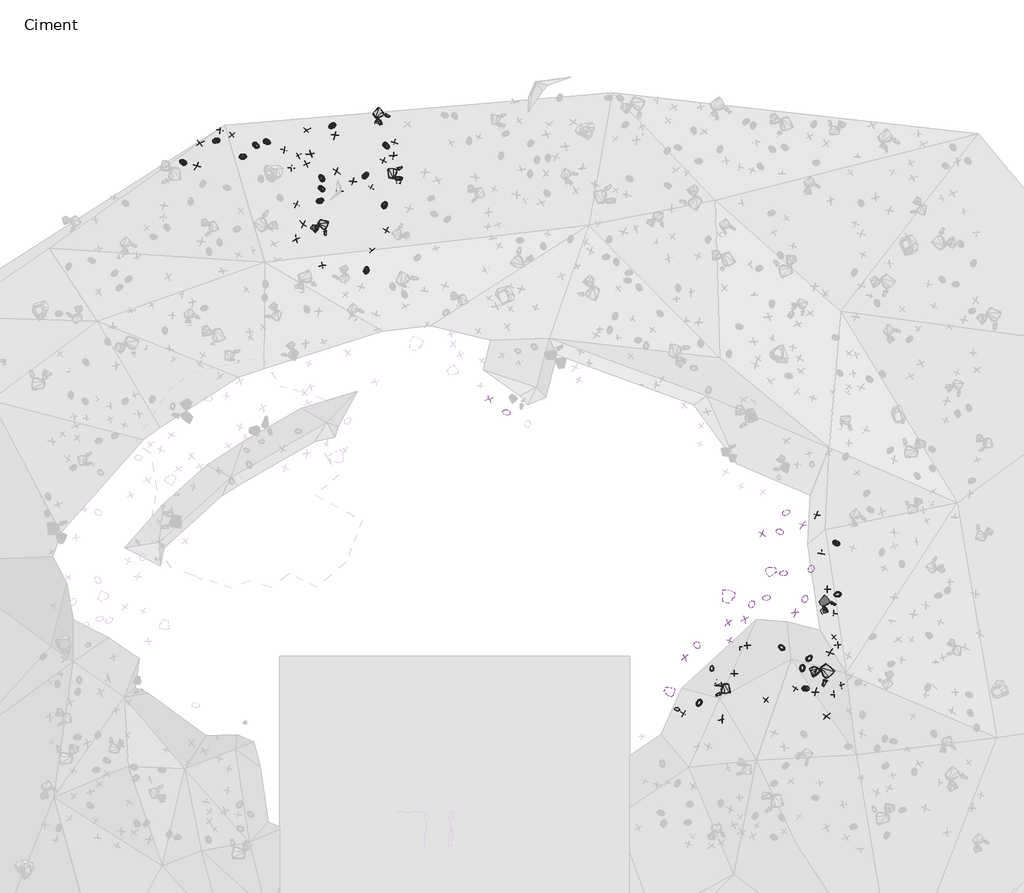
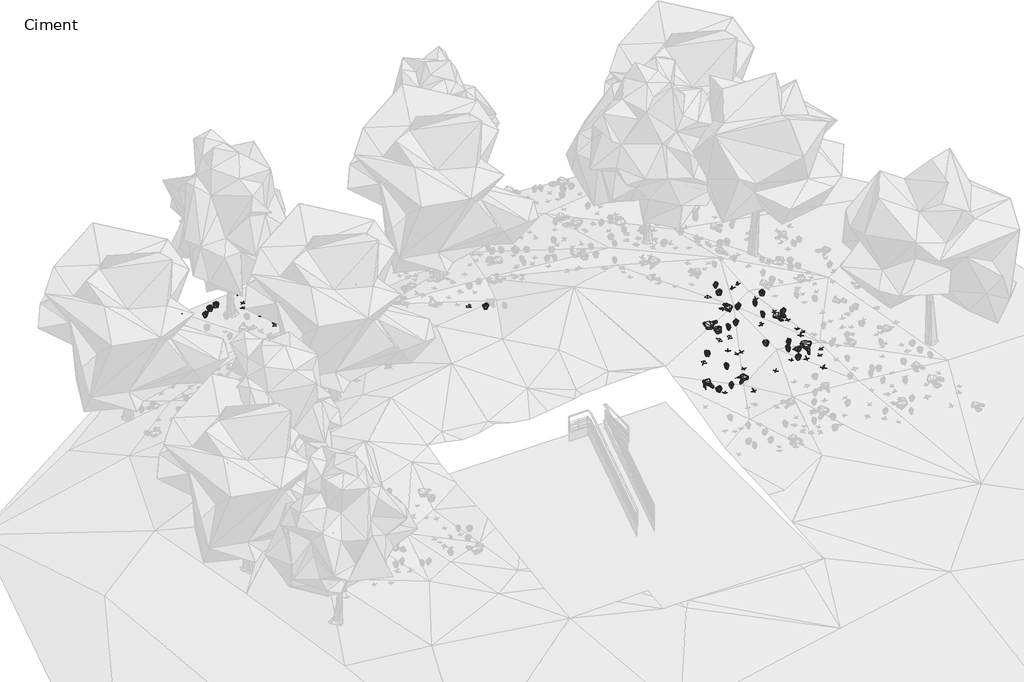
# One storey, part 24 of 30: 90 geographic elements.
"""IFC4 building model written with IfcOpenShell, lengths in millimetres."""

from ifc_helpers import new_model, si_unit, origin, place, context, project, spatial, transform, mapped, element, save
from components import enscape_assetdefinition_bush_025_fern_enscape_5718bf32, enscape_assetdefinition_bush_054_plant_09_version_2_enscape_7b546a12, enscape_assetdefinition_bush_062_plant_09_version_3_enscape_ccf8c8eb, enscape_assetdefinition_stone_013_group_enscape_516da325, enscape_assetdefinition_stone_013_group_enscape_db9b3e91

model = new_model("IFC4")

# Units and contexts
model_context = context("Model", 3, world=origin())
ifc_project = project(units=[si_unit("LENGTHUNIT", "METRE", prefix="MILLI")], contexts=[model_context])

# Site, building, storey
site = spatial("IfcSite", under=ifc_project)
building = spatial("IfcBuilding", under=site)
storey = spatial("IfcBuildingStorey", under=building, Name="Ciment", Elevation=-1500.0)

# Geographic elements
placement = place(None, origin())
enscape_assetdefinition_bush_025_fern_enscape_shape = enscape_assetdefinition_bush_025_fern_enscape_5718bf32(model_context)
element("IfcGeographicElement", 1, ObjectType="Enscape AssetDefinition - Bush 025 Fern : Enscape AssetDefinition - Bush 025 Fern", at=placement, inside=storey, context=model_context, shape_type="MappedRepresentation", body=[
    mapped(enscape_assetdefinition_bush_025_fern_enscape_shape, transform((11248.9833832, 2164.4420624, -379.1236877), x_axis=(-0.08680474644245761, 0.9962253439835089, 0.0), y_axis=(-0.9962253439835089, -0.08680474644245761, 0.0), z_axis=(0.0, 0.0, 1.0))),
])
element("IfcGeographicElement", 2, ObjectType="Enscape AssetDefinition - Bush 025 Fern : Enscape AssetDefinition - Bush 025 Fern", at=placement, inside=storey, context=model_context, shape_type="MappedRepresentation", body=[
    mapped(enscape_assetdefinition_bush_025_fern_enscape_shape, transform((14617.5899506, 1439.8517609, -627.004981), x_axis=(0.9952657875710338, 0.09719059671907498, 0.0), y_axis=(-0.09719059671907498, 0.9952657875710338, 0.0), z_axis=(0.0, 0.0, 1.0))),
])
element("IfcGeographicElement", 3, ObjectType="Enscape AssetDefinition - Bush 025 Fern : Enscape AssetDefinition - Bush 025 Fern", at=placement, inside=storey, context=model_context, shape_type="MappedRepresentation", body=[
    mapped(enscape_assetdefinition_bush_025_fern_enscape_shape, transform((-5085.7543945, 20898.5290527, -2830.5609226), x_axis=(0.8656762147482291, -0.5006043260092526, 0.0), y_axis=(0.5006043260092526, 0.8656762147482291, 0.0), z_axis=(0.0, 0.0, 1.0))),
])
element("IfcGeographicElement", 4, ObjectType="Enscape AssetDefinition - Bush 025 Fern : Enscape AssetDefinition - Bush 025 Fern", at=placement, inside=storey, context=model_context, shape_type="MappedRepresentation", body=[
    mapped(enscape_assetdefinition_bush_025_fern_enscape_shape, transform((-6518.1498528, 21073.3852386, -2942.3897266), x_axis=(-0.9495528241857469, -0.3136071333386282, 0.0), y_axis=(0.3136071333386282, -0.9495528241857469, 0.0), z_axis=(0.0, 0.0, 1.0))),
])
element("IfcGeographicElement", 5, ObjectType="Enscape AssetDefinition - Bush 025 Fern : Enscape AssetDefinition - Bush 025 Fern", at=placement, inside=storey, context=model_context, shape_type="MappedRepresentation", body=[
    mapped(enscape_assetdefinition_bush_025_fern_enscape_shape, transform((13744.6079254, 2916.727066, -441.4223433), x_axis=(-0.8074977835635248, 0.5898706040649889, 0.0), y_axis=(-0.5898706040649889, -0.8074977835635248, 0.0), z_axis=(0.0, 0.0, 1.0))),
])
element("IfcGeographicElement", 6, ObjectType="Enscape AssetDefinition - Bush 025 Fern : Enscape AssetDefinition - Bush 025 Fern", at=placement, inside=storey, context=model_context, shape_type="MappedRepresentation", body=[
    mapped(enscape_assetdefinition_bush_025_fern_enscape_shape, transform((3884.2182159, 11344.3441391, -65.4934645), x_axis=(-0.9575570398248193, 0.288243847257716, 0.0), y_axis=(-0.288243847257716, -0.9575570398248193, 0.0), z_axis=(0.0, 0.0, 1.0))),
])
element("IfcGeographicElement", 7, ObjectType="Enscape AssetDefinition - Bush 025 Fern : Enscape AssetDefinition - Bush 025 Fern", at=placement, inside=storey, context=model_context, shape_type="MappedRepresentation", body=[
    mapped(enscape_assetdefinition_bush_025_fern_enscape_shape, transform((10787.7025604, 922.7867126, -553.4416437), x_axis=(-0.3963527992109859, -0.9180982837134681, 0.0), y_axis=(0.9180982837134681, -0.3963527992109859, 0.0), z_axis=(0.0, 0.0, 1.0))),
])
element("IfcGeographicElement", 8, ObjectType="Enscape AssetDefinition - Bush 025 Fern : Enscape AssetDefinition - Bush 025 Fern", at=placement, inside=storey, context=model_context, shape_type="MappedRepresentation", body=[
    mapped(enscape_assetdefinition_bush_025_fern_enscape_shape, transform((13673.7384796, 7066.6322708, -121.9297647), x_axis=(-0.9081867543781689, 0.4185651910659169, 0.0), y_axis=(-0.4185651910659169, -0.9081867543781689, 0.0), z_axis=(0.0, 0.0, 1.0))),
])
element("IfcGeographicElement", 9, ObjectType="Enscape AssetDefinition - Bush 025 Fern : Enscape AssetDefinition - Bush 025 Fern", at=placement, inside=storey, context=model_context, shape_type="MappedRepresentation", body=[
    mapped(enscape_assetdefinition_bush_025_fern_enscape_shape, transform((9992.269516, 702.6062012, -345.9933996), x_axis=(-0.9807557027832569, 0.19523895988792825, 0.0), y_axis=(-0.19523895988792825, -0.9807557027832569, 0.0), z_axis=(0.0, 0.0, 1.0))),
])
element("IfcGeographicElement", 10, ObjectType="Enscape AssetDefinition - Bush 025 Fern : Enscape AssetDefinition - Bush 025 Fern", at=placement, inside=storey, context=model_context, shape_type="MappedRepresentation", body=[
    mapped(enscape_assetdefinition_bush_025_fern_enscape_shape, transform((-474.2088616, 18769.4225311, -2308.0177307), x_axis=(0.2947772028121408, 0.9555660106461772, 0.0), y_axis=(-0.9555660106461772, 0.2947772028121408, 0.0), z_axis=(0.0, 0.0, 1.0))),
])
element("IfcGeographicElement", 11, ObjectType="Enscape AssetDefinition - Bush 025 Fern : Enscape AssetDefinition - Bush 025 Fern", at=placement, inside=storey, context=model_context, shape_type="MappedRepresentation", body=[
    mapped(enscape_assetdefinition_bush_025_fern_enscape_shape, transform((-5550.037384, 20494.600296, -2761.2714767), x_axis=(0.9522758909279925, 0.3052386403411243, 0.0), y_axis=(-0.3052386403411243, 0.9522758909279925, 0.0), z_axis=(0.0, 0.0, 1.0))),
])
element("IfcGeographicElement", 12, ObjectType="Enscape AssetDefinition - Bush 025 Fern : Enscape AssetDefinition - Bush 025 Fern", at=placement, inside=storey, context=model_context, shape_type="MappedRepresentation", body=[
    mapped(enscape_assetdefinition_bush_025_fern_enscape_shape, transform((13211.1749649, 4687.8695488, -180.1968813), x_axis=(0.9129701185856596, 0.40802642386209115, 0.0), y_axis=(-0.40802642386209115, 0.9129701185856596, 0.0), z_axis=(0.0, 0.0, 1.0))),
])
element("IfcGeographicElement", 13, ObjectType="Enscape AssetDefinition - Bush 025 Fern : Enscape AssetDefinition - Bush 025 Fern", at=placement, inside=storey, context=model_context, shape_type="MappedRepresentation", body=[
    mapped(enscape_assetdefinition_bush_025_fern_enscape_shape, transform((14740.5042648, 2525.2761841, -470.2517986), x_axis=(0.6712833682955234, 0.7412008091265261, 0.0), y_axis=(-0.7412008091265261, 0.6712833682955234, 0.0), z_axis=(0.0, 0.0, 1.0))),
])
element("IfcGeographicElement", 14, ObjectType="Enscape AssetDefinition - Bush 025 Fern : Enscape AssetDefinition - Bush 025 Fern", at=placement, inside=storey, context=model_context, shape_type="MappedRepresentation", body=[
    mapped(enscape_assetdefinition_bush_025_fern_enscape_shape, transform((-1155.9677124, 19823.759079, -2531.080246), x_axis=(0.5097655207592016, 0.8603133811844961, 0.0), y_axis=(-0.8603133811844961, 0.5097655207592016, 0.0), z_axis=(0.0, 0.0, 1.0))),
])
element("IfcGeographicElement", 15, ObjectType="Enscape AssetDefinition - Bush 025 Fern : Enscape AssetDefinition - Bush 025 Fern", at=placement, inside=storey, context=model_context, shape_type="MappedRepresentation", body=[
    mapped(enscape_assetdefinition_bush_025_fern_enscape_shape, transform((-2727.9891968, 19339.7045135, -2470.6821442), x_axis=(0.8900844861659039, -0.4557955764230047, 0.0), y_axis=(0.4557955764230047, 0.8900844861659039, 0.0), z_axis=(0.0, 0.0, 1.0))),
])
element("IfcGeographicElement", 16, ObjectType="Enscape AssetDefinition - Bush 025 Fern : Enscape AssetDefinition - Bush 025 Fern", at=placement, inside=storey, context=model_context, shape_type="MappedRepresentation", body=[
    mapped(enscape_assetdefinition_bush_025_fern_enscape_shape, transform((10718.2407379, 2984.7257137, -13.4726763), x_axis=(0.5838577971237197, -0.8118559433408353, 0.0), y_axis=(0.8118559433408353, 0.5838577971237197, 0.0), z_axis=(0.0, 0.0, 1.0))),
])
element("IfcGeographicElement", 17, ObjectType="Enscape AssetDefinition - Bush 025 Fern : Enscape AssetDefinition - Bush 025 Fern", at=placement, inside=storey, context=model_context, shape_type="MappedRepresentation", body=[
    mapped(enscape_assetdefinition_bush_025_fern_enscape_shape, transform((-418.5123444, 20882.8411102, -2737.5376225), x_axis=(0.8061240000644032, -0.5917466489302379, 0.0), y_axis=(0.5917466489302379, 0.8061240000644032, 0.0), z_axis=(0.0, 0.0, 1.0))),
])
element("IfcGeographicElement", 18, ObjectType="Enscape AssetDefinition - Bush 025 Fern : Enscape AssetDefinition - Bush 025 Fern", at=placement, inside=storey, context=model_context, shape_type="MappedRepresentation", body=[
    mapped(enscape_assetdefinition_bush_025_fern_enscape_shape, transform((14799.1847992, 5719.7594643, -296.9311476), x_axis=(-0.159179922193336, -0.9872495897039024, 0.0), y_axis=(0.9872495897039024, -0.159179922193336, 0.0), z_axis=(0.0, 0.0, 1.0))),
])
element("IfcGeographicElement", 19, ObjectType="Enscape AssetDefinition - Bush 025 Fern : Enscape AssetDefinition - Bush 025 Fern", at=placement, inside=storey, context=model_context, shape_type="MappedRepresentation", body=[
    mapped(enscape_assetdefinition_bush_025_fern_enscape_shape, transform((-2334.5987797, 21608.7532043, -2926.6290665), x_axis=(0.7969665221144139, 0.604023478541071, 0.0), y_axis=(-0.604023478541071, 0.7969665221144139, 0.0), z_axis=(0.0, 0.0, 1.0))),
])
element("IfcGeographicElement", 20, ObjectType="Enscape AssetDefinition - Bush 025 Fern : Enscape AssetDefinition - Bush 025 Fern", at=placement, inside=storey, context=model_context, shape_type="MappedRepresentation", body=[
    mapped(enscape_assetdefinition_bush_025_fern_enscape_shape, transform((13809.1716766, 5573.8258362, -36.4154577), x_axis=(-0.9680045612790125, -0.2509325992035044, 0.0), y_axis=(0.2509325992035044, -0.9680045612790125, 0.0), z_axis=(0.0, 0.0, 1.0))),
])
element("IfcGeographicElement", 21, ObjectType="Enscape AssetDefinition - Bush 025 Fern : Enscape AssetDefinition - Bush 025 Fern", at=placement, inside=storey, context=model_context, shape_type="MappedRepresentation", body=[
    mapped(enscape_assetdefinition_bush_025_fern_enscape_shape, transform((14588.476181, 4656.0382843, -192.414403), x_axis=(0.0877627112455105, 0.9961414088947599, 0.0), y_axis=(-0.9961414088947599, 0.0877627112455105, 0.0), z_axis=(0.0, 0.0, 1.0))),
])
element("IfcGeographicElement", 22, ObjectType="Enscape AssetDefinition - Bush 025 Fern : Enscape AssetDefinition - Bush 025 Fern", at=placement, inside=storey, context=model_context, shape_type="MappedRepresentation", body=[
    mapped(enscape_assetdefinition_bush_025_fern_enscape_shape, transform((-1128.5305023, 16433.3057404, -1598.2650518), x_axis=(-0.007384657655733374, 0.9999727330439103, 0.0), y_axis=(-0.9999727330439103, -0.007384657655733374, 0.0), z_axis=(0.0, 0.0, 1.0))),
])
element("IfcGeographicElement", 23, ObjectType="Enscape AssetDefinition - Bush 025 Fern : Enscape AssetDefinition - Bush 025 Fern", at=placement, inside=storey, context=model_context, shape_type="MappedRepresentation", body=[
    mapped(enscape_assetdefinition_bush_025_fern_enscape_shape, transform((12681.1466217, 4469.7170258, -105.4997444), x_axis=(0.16474496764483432, 0.9863361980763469, 0.0), y_axis=(-0.9863361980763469, 0.16474496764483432, 0.0), z_axis=(0.0, 0.0, 1.0))),
])
element("IfcGeographicElement", 24, ObjectType="Enscape AssetDefinition - Bush 025 Fern : Enscape AssetDefinition - Bush 025 Fern", at=placement, inside=storey, context=model_context, shape_type="MappedRepresentation", body=[
    mapped(enscape_assetdefinition_bush_025_fern_enscape_shape, transform((14487.36763, 2163.7766361, -541.2278175), x_axis=(0.030425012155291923, -0.9995370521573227, 0.0), y_axis=(0.9995370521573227, 0.030425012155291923, 0.0), z_axis=(0.0, 0.0, 1.0))),
])
element("IfcGeographicElement", 25, ObjectType="Enscape AssetDefinition - Bush 025 Fern : Enscape AssetDefinition - Bush 025 Fern", at=placement, inside=storey, context=model_context, shape_type="MappedRepresentation", body=[
    mapped(enscape_assetdefinition_bush_025_fern_enscape_shape, transform((15714.307785, 6645.9908485, -603.8547754), x_axis=(0.9630651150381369, -0.2692686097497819, 0.0), y_axis=(0.2692686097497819, 0.9630651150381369, 0.0), z_axis=(0.0, 0.0, 1.0))),
])
element("IfcGeographicElement", 26, ObjectType="Enscape AssetDefinition - Bush 025 Fern : Enscape AssetDefinition - Bush 025 Fern", at=placement, inside=storey, context=model_context, shape_type="MappedRepresentation", body=[
    mapped(enscape_assetdefinition_bush_025_fern_enscape_shape, transform((13913.7945175, 7743.2265282, -200.3325224), x_axis=(0.7265784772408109, 0.6870834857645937, 0.0), y_axis=(-0.6870834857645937, 0.7265784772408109, 0.0), z_axis=(0.0, 0.0, 1.0))),
])
element("IfcGeographicElement", 27, ObjectType="Enscape AssetDefinition - Bush 025 Fern : Enscape AssetDefinition - Bush 025 Fern", at=placement, inside=storey, context=model_context, shape_type="MappedRepresentation", body=[
    mapped(enscape_assetdefinition_bush_025_fern_enscape_shape, transform((15743.0391312, 4816.6389465, -530.0244093), x_axis=(-0.9559693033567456, -0.2934666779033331, 0.0), y_axis=(0.2934666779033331, -0.9559693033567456, 0.0), z_axis=(0.0, 0.0, 1.0))),
])
element("IfcGeographicElement", 28, ObjectType="Enscape AssetDefinition - Bush 025 Fern : Enscape AssetDefinition - Bush 025 Fern", at=placement, inside=storey, context=model_context, shape_type="MappedRepresentation", body=[
    mapped(enscape_assetdefinition_bush_025_fern_enscape_shape, transform((-7704.044342, 20300.0354767, -2952.340126), x_axis=(-0.9357290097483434, 0.35271974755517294, 0.0), y_axis=(-0.35271974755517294, -0.9357290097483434, 0.0), z_axis=(0.0, 0.0, 1.0))),
])
element("IfcGeographicElement", 29, ObjectType="Enscape AssetDefinition - Bush 025 Fern : Enscape AssetDefinition - Bush 025 Fern", at=placement, inside=storey, context=model_context, shape_type="MappedRepresentation", body=[
    mapped(enscape_assetdefinition_bush_025_fern_enscape_shape, transform((-2778.66745, 18917.8905487, -2388.6494637), x_axis=(0.876327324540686, 0.4817161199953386, 0.0), y_axis=(-0.4817161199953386, 0.876327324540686, 0.0), z_axis=(0.0, 0.0, 1.0))),
])
element("IfcGeographicElement", 30, ObjectType="Enscape AssetDefinition - Bush 025 Fern : Enscape AssetDefinition - Bush 025 Fern", at=placement, inside=storey, context=model_context, shape_type="MappedRepresentation", body=[
    mapped(enscape_assetdefinition_bush_025_fern_enscape_shape, transform((-4686.3856316, 21024.5170593, -2846.4984894), x_axis=(0.9599027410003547, -0.2803332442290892, 0.0), y_axis=(0.2803332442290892, 0.9599027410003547, 0.0), z_axis=(0.0, 0.0, 1.0))),
])
element("IfcGeographicElement", 31, ObjectType="Enscape AssetDefinition - Bush 025 Fern : Enscape AssetDefinition - Bush 025 Fern", at=placement, inside=storey, context=model_context, shape_type="MappedRepresentation", body=[
    mapped(enscape_assetdefinition_bush_025_fern_enscape_shape, transform((-2729.3815613, 19734.5848083, -2548.5663414), x_axis=(-0.6682875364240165, 0.7439030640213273, 0.0), y_axis=(-0.7439030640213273, -0.6682875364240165, 0.0), z_axis=(0.0, 0.0, 1.0))),
])
enscape_assetdefinition_bush_054_plant_09_version_2_enscape_shape = enscape_assetdefinition_bush_054_plant_09_version_2_enscape_7b546a12(model_context)
element("IfcGeographicElement", 32, ObjectType="Enscape AssetDefinition - Bush 054 Plant 09, Version 2 : Enscape AssetDefinition - Bush 054 Plant 09, Version 2", at=placement, inside=storey, context=model_context, shape_type="MappedRepresentation", body=[
    mapped(enscape_assetdefinition_bush_054_plant_09_version_2_enscape_shape, transform((-3277.431488, 20243.2250977, -2661.0612869), x_axis=(-0.8932285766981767, -0.44960283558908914, 0.0), y_axis=(0.44960283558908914, -0.8932285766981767, 0.0), z_axis=(0.0, 0.0, 1.0))),
])
element("IfcGeographicElement", 33, ObjectType="Enscape AssetDefinition - Bush 054 Plant 09, Version 2 : Enscape AssetDefinition - Bush 054 Plant 09, Version 2", at=placement, inside=storey, context=model_context, shape_type="MappedRepresentation", body=[
    mapped(enscape_assetdefinition_bush_054_plant_09_version_2_enscape_shape, transform((-527.0252228, 20357.9158783, -2627.2654533), x_axis=(-0.3972254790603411, -0.9177210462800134, 0.0), y_axis=(0.9177210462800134, -0.3972254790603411, 0.0), z_axis=(0.0, 0.0, 1.0))),
])
element("IfcGeographicElement", 34, ObjectType="Enscape AssetDefinition - Bush 054 Plant 09, Version 2 : Enscape AssetDefinition - Bush 054 Plant 09, Version 2", at=placement, inside=storey, context=model_context, shape_type="MappedRepresentation", body=[
    mapped(enscape_assetdefinition_bush_054_plant_09_version_2_enscape_shape, transform((-3811.4032745, 20088.842392, -2642.5247192), x_axis=(0.021592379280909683, 0.9997668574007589, 0.0), y_axis=(-0.9997668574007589, 0.021592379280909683, 0.0), z_axis=(0.0, 0.0, 1.0))),
])
element("IfcGeographicElement", 35, ObjectType="Enscape AssetDefinition - Bush 054 Plant 09, Version 2 : Enscape AssetDefinition - Bush 054 Plant 09, Version 2", at=placement, inside=storey, context=model_context, shape_type="MappedRepresentation", body=[
    mapped(enscape_assetdefinition_bush_054_plant_09_version_2_enscape_shape, transform((15388.1130219, 5008.0637932, -434.7918034), x_axis=(-0.999502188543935, -0.031549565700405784, 0.0), y_axis=(0.031549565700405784, -0.999502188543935, 0.0), z_axis=(0.0, 0.0, 1.0))),
])
element("IfcGeographicElement", 36, ObjectType="Enscape AssetDefinition - Bush 054 Plant 09, Version 2 : Enscape AssetDefinition - Bush 054 Plant 09, Version 2", at=placement, inside=storey, context=model_context, shape_type="MappedRepresentation", body=[
    mapped(enscape_assetdefinition_bush_054_plant_09_version_2_enscape_shape, transform((-4080.4634094, 20728.0006409, -2774.5347023), x_axis=(0.9894125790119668, -0.14513010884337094, 0.0), y_axis=(0.14513010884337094, 0.9894125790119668, 0.0), z_axis=(0.0, 0.0, 1.0))),
])
element("IfcGeographicElement", 37, ObjectType="Enscape AssetDefinition - Bush 054 Plant 09, Version 2 : Enscape AssetDefinition - Bush 054 Plant 09, Version 2", at=placement, inside=storey, context=model_context, shape_type="MappedRepresentation", body=[
    mapped(enscape_assetdefinition_bush_054_plant_09_version_2_enscape_shape, transform((-2716.1560059, 16601.7341614, -1797.973752), x_axis=(0.2127259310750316, -0.9771119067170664, 0.0), y_axis=(0.9771119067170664, 0.2127259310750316, 0.0), z_axis=(0.0, 0.0, 1.0))),
])
element("IfcGeographicElement", 38, ObjectType="Enscape AssetDefinition - Bush 054 Plant 09, Version 2 : Enscape AssetDefinition - Bush 054 Plant 09, Version 2", at=placement, inside=storey, context=model_context, shape_type="MappedRepresentation", body=[
    mapped(enscape_assetdefinition_bush_054_plant_09_version_2_enscape_shape, transform((11884.5539093, 3154.4818878, -266.8989897), x_axis=(-0.3712023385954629, -0.9285520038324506, 0.0), y_axis=(0.9285520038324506, -0.3712023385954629, 0.0), z_axis=(0.0, 0.0, 1.0))),
])
element("IfcGeographicElement", 39, ObjectType="Enscape AssetDefinition - Bush 054 Plant 09, Version 2 : Enscape AssetDefinition - Bush 054 Plant 09, Version 2", at=placement, inside=storey, context=model_context, shape_type="MappedRepresentation", body=[
    mapped(enscape_assetdefinition_bush_054_plant_09_version_2_enscape_shape, transform((15619.5611954, 1236.4025116, -653.5947323), x_axis=(0.18390237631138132, -0.9829445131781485, 0.0), y_axis=(0.9829445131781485, 0.18390237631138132, 0.0), z_axis=(0.0, 0.0, 1.0))),
])
element("IfcGeographicElement", 40, ObjectType="Enscape AssetDefinition - Bush 054 Plant 09, Version 2 : Enscape AssetDefinition - Bush 054 Plant 09, Version 2", at=placement, inside=storey, context=model_context, shape_type="MappedRepresentation", body=[
    mapped(enscape_assetdefinition_bush_054_plant_09_version_2_enscape_shape, transform((-934.9727631, 17133.2607269, -1987.5115156), x_axis=(0.7255229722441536, -0.688197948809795, 0.0), y_axis=(0.688197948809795, 0.7255229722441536, 0.0), z_axis=(0.0, 0.0, 1.0))),
])
element("IfcGeographicElement", 41, ObjectType="Enscape AssetDefinition - Bush 054 Plant 09, Version 2 : Enscape AssetDefinition - Bush 054 Plant 09, Version 2", at=placement, inside=storey, context=model_context, shape_type="MappedRepresentation", body=[
    mapped(enscape_assetdefinition_bush_054_plant_09_version_2_enscape_shape, transform((15165.2812958, 6286.605835, -424.8818159), x_axis=(-0.08933460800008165, -0.9960016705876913, 0.0), y_axis=(0.9960016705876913, -0.08933460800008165, 0.0), z_axis=(0.0, 0.0, 1.0))),
])
element("IfcGeographicElement", 42, ObjectType="Enscape AssetDefinition - Bush 054 Plant 09, Version 2 : Enscape AssetDefinition - Bush 054 Plant 09, Version 2", at=placement, inside=storey, context=model_context, shape_type="MappedRepresentation", body=[
    mapped(enscape_assetdefinition_bush_054_plant_09_version_2_enscape_shape, transform((10228.1475067, 541.8281555, -437.7381802), x_axis=(0.8854075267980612, -0.4648155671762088, 0.0), y_axis=(0.4648155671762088, 0.8854075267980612, 0.0), z_axis=(0.0, 0.0, 1.0))),
])
element("IfcGeographicElement", 43, ObjectType="Enscape AssetDefinition - Bush 054 Plant 09, Version 2 : Enscape AssetDefinition - Bush 054 Plant 09, Version 2", at=placement, inside=storey, context=model_context, shape_type="MappedRepresentation", body=[
    mapped(enscape_assetdefinition_bush_054_plant_09_version_2_enscape_shape, transform((12509.4890594, 2993.5131073, -446.9628334), x_axis=(-0.9897240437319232, -0.1429906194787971, 0.0), y_axis=(0.1429906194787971, -0.9897240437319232, 0.0), z_axis=(0.0, 0.0, 1.0))),
])
element("IfcGeographicElement", 44, ObjectType="Enscape AssetDefinition - Bush 054 Plant 09, Version 2 : Enscape AssetDefinition - Bush 054 Plant 09, Version 2", at=placement, inside=storey, context=model_context, shape_type="MappedRepresentation", body=[
    mapped(enscape_assetdefinition_bush_054_plant_09_version_2_enscape_shape, transform((-3632.9288483, 18787.9180908, -2382.0638657), x_axis=(-0.9363211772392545, 0.3511447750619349, 0.0), y_axis=(-0.3511447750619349, -0.9363211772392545, 0.0), z_axis=(0.0, 0.0, 1.0))),
])
element("IfcGeographicElement", 45, ObjectType="Enscape AssetDefinition - Bush 054 Plant 09, Version 2 : Enscape AssetDefinition - Bush 054 Plant 09, Version 2", at=placement, inside=storey, context=model_context, shape_type="MappedRepresentation", body=[
    mapped(enscape_assetdefinition_bush_054_plant_09_version_2_enscape_shape, transform((14238.2564545, 1448.30513, -572.5650787), x_axis=(0.8615492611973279, -0.5076739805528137, 0.0), y_axis=(0.5076739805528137, 0.8615492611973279, 0.0), z_axis=(0.0, 0.0, 1.0))),
])
element("IfcGeographicElement", 46, ObjectType="Enscape AssetDefinition - Bush 054 Plant 09, Version 2 : Enscape AssetDefinition - Bush 054 Plant 09, Version 2", at=placement, inside=storey, context=model_context, shape_type="MappedRepresentation", body=[
    mapped(enscape_assetdefinition_bush_054_plant_09_version_2_enscape_shape, transform((-133.9168549, 21011.3964081, -2759.973526), x_axis=(-0.24291300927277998, -0.970048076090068, 0.0), y_axis=(0.970048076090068, -0.24291300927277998, 0.0), z_axis=(0.0, 0.0, 1.0))),
])
element("IfcGeographicElement", 47, ObjectType="Enscape AssetDefinition - Bush 054 Plant 09, Version 2 : Enscape AssetDefinition - Bush 054 Plant 09, Version 2", at=placement, inside=storey, context=model_context, shape_type="MappedRepresentation", body=[
    mapped(enscape_assetdefinition_bush_054_plant_09_version_2_enscape_shape, transform((15760.9453201, 2997.9515076, -456.7769766), x_axis=(0.9823305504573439, 0.18715418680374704, 0.0), y_axis=(-0.18715418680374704, 0.9823305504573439, 0.0), z_axis=(0.0, 0.0, 1.0))),
])
element("IfcGeographicElement", 48, ObjectType="Enscape AssetDefinition - Bush 054 Plant 09, Version 2 : Enscape AssetDefinition - Bush 054 Plant 09, Version 2", at=placement, inside=storey, context=model_context, shape_type="MappedRepresentation", body=[
    mapped(enscape_assetdefinition_bush_054_plant_09_version_2_enscape_shape, transform((-962.884903, 19391.0770416, -2441.4713383), x_axis=(-0.8887048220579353, 0.4584798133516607, 0.0), y_axis=(-0.4584798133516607, -0.8887048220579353, 0.0), z_axis=(0.0, 0.0, 1.0))),
])
element("IfcGeographicElement", 49, ObjectType="Enscape AssetDefinition - Bush 054 Plant 09, Version 2 : Enscape AssetDefinition - Bush 054 Plant 09, Version 2", at=placement, inside=storey, context=model_context, shape_type="MappedRepresentation", body=[
    mapped(enscape_assetdefinition_bush_054_plant_09_version_2_enscape_shape, transform((-3569.927454, 20538.7878418, -2725.8517742), x_axis=(-0.5461137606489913, 0.8377110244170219, 0.0), y_axis=(-0.8377110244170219, -0.5461137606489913, 0.0), z_axis=(0.0, 0.0, 1.0))),
])
element("IfcGeographicElement", 50, ObjectType="Enscape AssetDefinition - Bush 054 Plant 09, Version 2 : Enscape AssetDefinition - Bush 054 Plant 09, Version 2", at=placement, inside=storey, context=model_context, shape_type="MappedRepresentation", body=[
    mapped(enscape_assetdefinition_bush_054_plant_09_version_2_enscape_shape, transform((13179.6674728, 1040.6703949, -548.9351749), x_axis=(-0.6044837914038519, -0.7966174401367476, 0.0), y_axis=(0.7966174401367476, -0.6044837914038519, 0.0), z_axis=(0.0, 0.0, 1.0))),
])
element("IfcGeographicElement", 51, ObjectType="Enscape AssetDefinition - Bush 054 Plant 09, Version 2 : Enscape AssetDefinition - Bush 054 Plant 09, Version 2", at=placement, inside=storey, context=model_context, shape_type="MappedRepresentation", body=[
    mapped(enscape_assetdefinition_bush_054_plant_09_version_2_enscape_shape, transform((15883.7070465, 1563.4880066, -583.9567184), x_axis=(-0.20968820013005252, 0.9777683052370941, 0.0), y_axis=(-0.9777683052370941, -0.20968820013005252, 0.0), z_axis=(0.0, 0.0, 1.0))),
])
element("IfcGeographicElement", 52, ObjectType="Enscape AssetDefinition - Bush 054 Plant 09, Version 2 : Enscape AssetDefinition - Bush 054 Plant 09, Version 2", at=placement, inside=storey, context=model_context, shape_type="MappedRepresentation", body=[
    mapped(enscape_assetdefinition_bush_054_plant_09_version_2_enscape_shape, transform((-2078.4664154, 19262.8974915, -2441.0638809), x_axis=(0.016941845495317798, 0.9998564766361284, 0.0), y_axis=(-0.9998564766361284, 0.016941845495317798, 0.0), z_axis=(0.0, 0.0, 1.0))),
])
element("IfcGeographicElement", 53, ObjectType="Enscape AssetDefinition - Bush 054 Plant 09, Version 2 : Enscape AssetDefinition - Bush 054 Plant 09, Version 2", at=placement, inside=storey, context=model_context, shape_type="MappedRepresentation", body=[
    mapped(enscape_assetdefinition_bush_054_plant_09_version_2_enscape_shape, transform((15603.2915115, 4143.5985565, -459.8581791), x_axis=(-0.057510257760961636, -0.9983449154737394, 0.0), y_axis=(0.9983449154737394, -0.057510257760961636, 0.0), z_axis=(0.0, 0.0, 1.0))),
])
element("IfcGeographicElement", 54, ObjectType="Enscape AssetDefinition - Bush 054 Plant 09, Version 2 : Enscape AssetDefinition - Bush 054 Plant 09, Version 2", at=placement, inside=storey, context=model_context, shape_type="MappedRepresentation", body=[
    mapped(enscape_assetdefinition_bush_054_plant_09_version_2_enscape_shape, transform((-5954.3151855, 21273.3898163, -2923.8233566), x_axis=(0.671324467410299, -0.7411635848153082, 0.0), y_axis=(0.7411635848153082, 0.671324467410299, 0.0), z_axis=(0.0, 0.0, 1.0))),
])
element("IfcGeographicElement", 55, ObjectType="Enscape AssetDefinition - Bush 054 Plant 09, Version 2 : Enscape AssetDefinition - Bush 054 Plant 09, Version 2", at=placement, inside=storey, context=model_context, shape_type="MappedRepresentation", body=[
    mapped(enscape_assetdefinition_bush_054_plant_09_version_2_enscape_shape, transform((12237.2493744, 2927.1945953, -421.2445021), x_axis=(0.9936969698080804, 0.11209965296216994, 0.0), y_axis=(-0.11209965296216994, 0.9936969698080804, 0.0), z_axis=(0.0, 0.0, 1.0))),
])
element("IfcGeographicElement", 56, ObjectType="Enscape AssetDefinition - Bush 054 Plant 09, Version 2 : Enscape AssetDefinition - Bush 054 Plant 09, Version 2", at=placement, inside=storey, context=model_context, shape_type="MappedRepresentation", body=[
    mapped(enscape_assetdefinition_bush_054_plant_09_version_2_enscape_shape, transform((-6367.0101166, 21436.958313, -2985.8870506), x_axis=(0.07787745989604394, 0.9969629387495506, 0.0), y_axis=(-0.9969629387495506, 0.07787745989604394, 0.0), z_axis=(0.0, 0.0, 1.0))),
])
element("IfcGeographicElement", 57, ObjectType="Enscape AssetDefinition - Bush 054 Plant 09, Version 2 : Enscape AssetDefinition - Bush 054 Plant 09, Version 2", at=placement, inside=storey, context=model_context, shape_type="MappedRepresentation", body=[
    mapped(enscape_assetdefinition_bush_054_plant_09_version_2_enscape_shape, transform((-416.2216187, 17858.9897156, -2127.2292137), x_axis=(-0.43921195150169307, -0.8983834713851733, 0.0), y_axis=(0.8983834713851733, -0.43921195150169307, 0.0), z_axis=(0.0, 0.0, 1.0))),
])
element("IfcGeographicElement", 58, ObjectType="Enscape AssetDefinition - Bush 054 Plant 09, Version 2 : Enscape AssetDefinition - Bush 054 Plant 09, Version 2", at=placement, inside=storey, context=model_context, shape_type="MappedRepresentation", body=[
    mapped(enscape_assetdefinition_bush_054_plant_09_version_2_enscape_shape, transform((15617.6013947, 3276.6857147, -427.6387691), x_axis=(0.6967606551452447, 0.7173036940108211, 0.0), y_axis=(-0.7173036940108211, 0.6967606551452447, 0.0), z_axis=(0.0, 0.0, 1.0))),
])
element("IfcGeographicElement", 59, ObjectType="Enscape AssetDefinition - Bush 054 Plant 09, Version 2 : Enscape AssetDefinition - Bush 054 Plant 09, Version 2", at=placement, inside=storey, context=model_context, shape_type="MappedRepresentation", body=[
    mapped(enscape_assetdefinition_bush_054_plant_09_version_2_enscape_shape, transform((12043.4436798, 1979.5913696, -607.2406769), x_axis=(0.10153484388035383, -0.9948319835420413, 0.0), y_axis=(0.9948319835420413, 0.10153484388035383, 0.0), z_axis=(0.0, 0.0, 1.0))),
])
enscape_assetdefinition_bush_062_plant_09_version_3_enscape_shape = enscape_assetdefinition_bush_062_plant_09_version_3_enscape_ccf8c8eb(model_context)
element("IfcGeographicElement", 60, ObjectType="Enscape AssetDefinition - Bush 062 Plant 09, Version 3 : Enscape AssetDefinition - Bush 062 Plant 09, Version 3", at=placement, inside=storey, context=model_context, shape_type="MappedRepresentation", body=[
    mapped(enscape_assetdefinition_bush_062_plant_09_version_3_enscape_shape, transform((-3265.342474, 21449.6173859, -2909.101963), x_axis=(0.7795712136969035, -0.626313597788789, 0.0), y_axis=(0.626313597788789, 0.7795712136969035, 0.0), z_axis=(0.0, 0.0, 1.0))),
])
element("IfcGeographicElement", 61, ObjectType="Enscape AssetDefinition - Bush 062 Plant 09, Version 3 : Enscape AssetDefinition - Bush 062 Plant 09, Version 3", at=placement, inside=storey, context=model_context, shape_type="MappedRepresentation", body=[
    mapped(enscape_assetdefinition_bush_062_plant_09_version_3_enscape_shape, transform((-2187.2749329, 19971.6205597, -2583.2166672), x_axis=(-0.26530803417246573, -0.96416370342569, 0.0), y_axis=(0.96416370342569, -0.26530803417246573, 0.0), z_axis=(0.0, 0.0, 1.0))),
])
element("IfcGeographicElement", 62, ObjectType="Enscape AssetDefinition - Bush 062 Plant 09, Version 3 : Enscape AssetDefinition - Bush 062 Plant 09, Version 3", at=placement, inside=storey, context=model_context, shape_type="MappedRepresentation", body=[
    mapped(enscape_assetdefinition_bush_062_plant_09_version_3_enscape_shape, transform((15360.326767, 457.4661255, -781.3583612), x_axis=(0.8702934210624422, -0.49253361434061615, 0.0), y_axis=(0.49253361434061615, 0.8702934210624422, 0.0), z_axis=(0.0, 0.0, 1.0))),
])
element("IfcGeographicElement", 63, ObjectType="Enscape AssetDefinition - Bush 062 Plant 09, Version 3 : Enscape AssetDefinition - Bush 062 Plant 09, Version 3", at=placement, inside=storey, context=model_context, shape_type="MappedRepresentation", body=[
    mapped(enscape_assetdefinition_bush_062_plant_09_version_3_enscape_shape, transform((-3401.7982483, 18082.1342468, -2237.7634048), x_axis=(0.3751039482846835, 0.9269827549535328, 0.0), y_axis=(-0.9269827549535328, 0.3751039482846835, 0.0), z_axis=(0.0, 0.0, 1.0))),
])
element("IfcGeographicElement", 64, ObjectType="Enscape AssetDefinition - Bush 062 Plant 09, Version 3 : Enscape AssetDefinition - Bush 062 Plant 09, Version 3", at=placement, inside=storey, context=model_context, shape_type="MappedRepresentation", body=[
    mapped(enscape_assetdefinition_bush_062_plant_09_version_3_enscape_shape, transform((14957.4642181, 1328.3137083, -667.3271656), x_axis=(0.9986340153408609, 0.05225039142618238, 0.0), y_axis=(-0.05225039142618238, 0.9986340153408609, 0.0), z_axis=(0.0, 0.0, 1.0))),
])
element("IfcGeographicElement", 65, ObjectType="Enscape AssetDefinition - Bush 062 Plant 09, Version 3 : Enscape AssetDefinition - Bush 062 Plant 09, Version 3", at=placement, inside=storey, context=model_context, shape_type="MappedRepresentation", body=[
    mapped(enscape_assetdefinition_bush_062_plant_09_version_3_enscape_shape, transform((14993.2994843, 7652.2397995, -387.3054981), x_axis=(-0.9983734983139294, 0.05701190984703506, 0.0), y_axis=(-0.05701190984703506, -0.9983734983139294, 0.0), z_axis=(0.0, 0.0, 1.0))),
])
element("IfcGeographicElement", 66, ObjectType="Enscape AssetDefinition - Bush 062 Plant 09, Version 3 : Enscape AssetDefinition - Bush 062 Plant 09, Version 3", at=placement, inside=storey, context=model_context, shape_type="MappedRepresentation", body=[
    mapped(enscape_assetdefinition_bush_062_plant_09_version_3_enscape_shape, transform((15479.2232513, 2738.5044098, -408.0820084), x_axis=(0.973308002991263, -0.22950279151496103, 0.0), y_axis=(0.22950279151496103, 0.973308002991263, 0.0), z_axis=(0.0, 0.0, 1.0))),
])
element("IfcGeographicElement", 67, ObjectType="Enscape AssetDefinition - Bush 062 Plant 09, Version 3 : Enscape AssetDefinition - Bush 062 Plant 09, Version 3", at=placement, inside=storey, context=model_context, shape_type="MappedRepresentation", body=[
    mapped(enscape_assetdefinition_bush_062_plant_09_version_3_enscape_shape, transform((-7082.0941925, 20992.811203, -2995.6331253), x_axis=(0.7219783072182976, -0.691915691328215, 0.0), y_axis=(0.691915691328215, 0.7219783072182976, 0.0), z_axis=(0.0, 0.0, 1.0))),
])
element("IfcGeographicElement", 68, ObjectType="Enscape AssetDefinition - Bush 062 Plant 09, Version 3 : Enscape AssetDefinition - Bush 062 Plant 09, Version 3", at=placement, inside=storey, context=model_context, shape_type="MappedRepresentation", body=[
    mapped(enscape_assetdefinition_bush_062_plant_09_version_3_enscape_shape, transform((-2253.3531189, 21255.6247711, -2849.7135639), x_axis=(-0.9977573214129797, -0.06693524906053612, 0.0), y_axis=(0.06693524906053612, -0.9977573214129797, 0.0), z_axis=(0.0, 0.0, 1.0))),
])
element("IfcGeographicElement", 69, ObjectType="Enscape AssetDefinition - Bush 062 Plant 09, Version 3 : Enscape AssetDefinition - Bush 062 Plant 09, Version 3", at=placement, inside=storey, context=model_context, shape_type="MappedRepresentation", body=[
    mapped(enscape_assetdefinition_bush_062_plant_09_version_3_enscape_shape, transform((11617.2084808, 348.7129211, -703.7158012), x_axis=(0.9652482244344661, 0.2613347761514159, 0.0), y_axis=(-0.2613347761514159, 0.9652482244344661, 0.0), z_axis=(0.0, 0.0, 1.0))),
])
element("IfcGeographicElement", 70, ObjectType="Enscape AssetDefinition - Bush 062 Plant 09, Version 3 : Enscape AssetDefinition - Bush 062 Plant 09, Version 3", at=placement, inside=storey, context=model_context, shape_type="MappedRepresentation", body=[
    mapped(enscape_assetdefinition_bush_062_plant_09_version_3_enscape_shape, transform((-160.4862213, 20516.7388916, -2654.718399), x_axis=(-0.9840931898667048, -0.17765301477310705, 0.0), y_axis=(0.17765301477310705, -0.9840931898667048, 0.0), z_axis=(0.0, 0.0, 1.0))),
])
element("IfcGeographicElement", 71, ObjectType="Enscape AssetDefinition - Bush 062 Plant 09, Version 3 : Enscape AssetDefinition - Bush 062 Plant 09, Version 3", at=placement, inside=storey, context=model_context, shape_type="MappedRepresentation", body=[
    mapped(enscape_assetdefinition_bush_062_plant_09_version_3_enscape_shape, transform((-7209.4707489, 20157.9494476, -2869.7085381), x_axis=(-0.9828869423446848, 0.18420982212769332, 0.0), y_axis=(-0.18420982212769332, -0.9828869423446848, 0.0), z_axis=(0.0, 0.0, 1.0))),
])
element("IfcGeographicElement", 72, ObjectType="Enscape AssetDefinition - Bush 062 Plant 09, Version 3 : Enscape AssetDefinition - Bush 062 Plant 09, Version 3", at=placement, inside=storey, context=model_context, shape_type="MappedRepresentation", body=[
    mapped(enscape_assetdefinition_bush_062_plant_09_version_3_enscape_shape, transform((13056.4947128, 6990.5247688, -46.0196733), x_axis=(-0.3174362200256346, -0.9482796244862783, 0.0), y_axis=(0.9482796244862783, -0.3174362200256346, 0.0), z_axis=(0.0, 0.0, 1.0))),
])
element("IfcGeographicElement", 73, ObjectType="Enscape AssetDefinition - Bush 062 Plant 09, Version 3 : Enscape AssetDefinition - Bush 062 Plant 09, Version 3", at=placement, inside=storey, context=model_context, shape_type="MappedRepresentation", body=[
    mapped(enscape_assetdefinition_bush_062_plant_09_version_3_enscape_shape, transform((10286.485672, 2552.0553589, -22.8048563), x_axis=(-0.7280612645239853, -0.6855120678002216, 0.0), y_axis=(0.6855120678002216, -0.7280612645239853, 0.0), z_axis=(0.0, 0.0, 1.0))),
])
element("IfcGeographicElement", 74, ObjectType="Enscape AssetDefinition - Bush 062 Plant 09, Version 3 : Enscape AssetDefinition - Bush 062 Plant 09, Version 3", at=placement, inside=storey, context=model_context, shape_type="MappedRepresentation", body=[
    mapped(enscape_assetdefinition_bush_062_plant_09_version_3_enscape_shape, transform((14230.2379608, 4150.4440308, -239.5210266), x_axis=(-0.9856239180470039, -0.168954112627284, 0.0), y_axis=(0.168954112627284, -0.9856239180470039, 0.0), z_axis=(0.0, 0.0, 1.0))),
])
element("IfcGeographicElement", 75, ObjectType="Enscape AssetDefinition - Bush 062 Plant 09, Version 3 : Enscape AssetDefinition - Bush 062 Plant 09, Version 3", at=placement, inside=storey, context=model_context, shape_type="MappedRepresentation", body=[
    mapped(enscape_assetdefinition_bush_062_plant_09_version_3_enscape_shape, transform((14509.2792511, 7297.5311279, -231.6334248), x_axis=(-0.9789182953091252, 0.2042522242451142, 0.0), y_axis=(-0.2042522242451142, -0.9789182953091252, 0.0), z_axis=(0.0, 0.0, 1.0))),
])
element("IfcGeographicElement", 76, ObjectType="Enscape AssetDefinition - Bush 062 Plant 09, Version 3 : Enscape AssetDefinition - Bush 062 Plant 09, Version 3", at=placement, inside=storey, context=model_context, shape_type="MappedRepresentation", body=[
    mapped(enscape_assetdefinition_bush_062_plant_09_version_3_enscape_shape, transform((3260.622263, 11802.9193878, -43.5116291), x_axis=(-0.5557683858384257, 0.8313371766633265, 0.0), y_axis=(-0.8313371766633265, -0.5557683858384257, 0.0), z_axis=(0.0, 0.0, 1.0))),
])
element("IfcGeographicElement", 77, ObjectType="Enscape AssetDefinition - Bush 062 Plant 09, Version 3 : Enscape AssetDefinition - Bush 062 Plant 09, Version 3", at=placement, inside=storey, context=model_context, shape_type="MappedRepresentation", body=[
    mapped(enscape_assetdefinition_bush_062_plant_09_version_3_enscape_shape, transform((-3135.7803345, 20595.582962, -2727.3736), x_axis=(-0.41115604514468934, 0.9115649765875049, 0.0), y_axis=(-0.9115649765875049, -0.41115604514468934, 0.0), z_axis=(0.0, 0.0, 1.0))),
])
element("IfcGeographicElement", 78, ObjectType="Enscape AssetDefinition - Bush 062 Plant 09, Version 3 : Enscape AssetDefinition - Bush 062 Plant 09, Version 3", at=placement, inside=storey, context=model_context, shape_type="MappedRepresentation", body=[
    mapped(enscape_assetdefinition_bush_062_plant_09_version_3_enscape_shape, transform((11818.113327, 3805.0899506, -68.3069229), x_axis=(0.6813130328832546, 0.7319921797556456, 0.0), y_axis=(-0.7319921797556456, 0.6813130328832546, 0.0), z_axis=(0.0, 0.0, 1.0))),
])
element("IfcGeographicElement", 79, ObjectType="Enscape AssetDefinition - Bush 062 Plant 09, Version 3 : Enscape AssetDefinition - Bush 062 Plant 09, Version 3", at=placement, inside=storey, context=model_context, shape_type="MappedRepresentation", body=[
    mapped(enscape_assetdefinition_bush_062_plant_09_version_3_enscape_shape, transform((-1610.9849215, 19596.3306427, -2496.3827133), x_axis=(-0.9994506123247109, -0.03314322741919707, 0.0), y_axis=(0.03314322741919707, -0.9994506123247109, 0.0), z_axis=(0.0, 0.0, 1.0))),
])
element("IfcGeographicElement", 80, ObjectType="Enscape AssetDefinition - Bush 062 Plant 09, Version 3 : Enscape AssetDefinition - Bush 062 Plant 09, Version 3", at=placement, inside=storey, context=model_context, shape_type="MappedRepresentation", body=[
    mapped(enscape_assetdefinition_bush_062_plant_09_version_3_enscape_shape, transform((-3646.1772919, 17551.5155792, -2138.5958195), x_axis=(0.8595559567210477, 0.5110416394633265, 0.0), y_axis=(-0.5110416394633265, 0.8595559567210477, 0.0), z_axis=(0.0, 0.0, 1.0))),
])
element("IfcGeographicElement", 81, ObjectType="Enscape AssetDefinition - Bush 062 Plant 09, Version 3 : Enscape AssetDefinition - Bush 062 Plant 09, Version 3", at=placement, inside=storey, context=model_context, shape_type="MappedRepresentation", body=[
    mapped(enscape_assetdefinition_bush_062_plant_09_version_3_enscape_shape, transform((12433.839798, 3920.3798771, -194.9366331), x_axis=(-0.8177143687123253, -0.5756241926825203, 0.0), y_axis=(0.5756241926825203, -0.8177143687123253, 0.0), z_axis=(0.0, 0.0, 1.0))),
])
enscape_assetdefinition_stone_013_group_enscape_shape = enscape_assetdefinition_stone_013_group_enscape_516da325(model_context)
element("IfcGeographicElement", 82, ObjectType="Enscape AssetDefinition - Stone 013 Group : Enscape AssetDefinition - Stone 013 Group", at=placement, inside=storey, context=model_context, shape_type="MappedRepresentation", body=[
    mapped(enscape_assetdefinition_stone_013_group_enscape_shape, transform((12023.2028961, 4698.1105804, 127.8727055), x_axis=(0.16043162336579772, 0.9870469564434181, 0.0), y_axis=(-0.9870469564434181, 0.16043162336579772, 0.0), z_axis=(0.0, 0.0, 1.0))),
])
element("IfcGeographicElement", 83, ObjectType="Enscape AssetDefinition - Stone 013 Group : Enscape AssetDefinition - Stone 013 Group", at=placement, inside=storey, context=model_context, shape_type="MappedRepresentation", body=[
    mapped(enscape_assetdefinition_stone_013_group_enscape_shape, transform((15211.2636566, 1941.0362244, -547.7762222), x_axis=(0.7141517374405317, -0.6999909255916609, 0.0), y_axis=(0.6999909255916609, 0.7141517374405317, 0.0), z_axis=(0.0, 0.0, 1.0))),
])
enscape_assetdefinition_stone_013_group_enscape_2_shape = enscape_assetdefinition_stone_013_group_enscape_db9b3e91(model_context)
element("IfcGeographicElement", 84, ObjectType="Enscape AssetDefinition - Stone 013 Group : Enscape AssetDefinition - Stone 013 Group 2", at=placement, inside=storey, context=model_context, shape_type="MappedRepresentation", body=[
    mapped(enscape_assetdefinition_stone_013_group_enscape_2_shape, transform((-2742.1834469, 17935.8596802, -2194.2238808), x_axis=(0.9440792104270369, -0.32971873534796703, 0.0), y_axis=(0.32971873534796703, 0.9440792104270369, 0.0), z_axis=(0.0, 0.0, 1.0))),
])
element("IfcGeographicElement", 85, ObjectType="Enscape AssetDefinition - Stone 013 Group : Enscape AssetDefinition - Stone 013 Group 2", at=placement, inside=storey, context=model_context, shape_type="MappedRepresentation", body=[
    mapped(enscape_assetdefinition_stone_013_group_enscape_2_shape, transform((-51.7406464, 19891.7961121, -2519.8845863), x_axis=(-0.021762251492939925, 0.9997631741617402, 0.0), y_axis=(-0.9997631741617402, -0.021762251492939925, 0.0), z_axis=(0.0, 0.0, 1.0))),
])
element("IfcGeographicElement", 86, ObjectType="Enscape AssetDefinition - Stone 013 Group : Enscape AssetDefinition - Stone 013 Group 2", at=placement, inside=storey, context=model_context, shape_type="MappedRepresentation", body=[
    mapped(enscape_assetdefinition_stone_013_group_enscape_2_shape, transform((9682.3787689, 1193.7599182, -188.031435), x_axis=(0.9680242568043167, -0.2508566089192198, 0.0), y_axis=(0.2508566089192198, 0.9680242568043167, 0.0), z_axis=(0.0, 0.0, 1.0))),
])
element("IfcGeographicElement", 87, ObjectType="Enscape AssetDefinition - Stone 013 Group : Enscape AssetDefinition - Stone 013 Group 2", at=placement, inside=storey, context=model_context, shape_type="MappedRepresentation", body=[
    mapped(enscape_assetdefinition_stone_013_group_enscape_2_shape, transform((13293.4017181, 5785.3145599, 53.9634228), x_axis=(-0.8558859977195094, -0.5171645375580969, 0.0), y_axis=(0.5171645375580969, -0.8558859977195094, 0.0), z_axis=(0.0, 0.0, 1.0))),
])
element("IfcGeographicElement", 88, ObjectType="Enscape AssetDefinition - Stone 013 Group : Enscape AssetDefinition - Stone 013 Group 2", at=placement, inside=storey, context=model_context, shape_type="MappedRepresentation", body=[
    mapped(enscape_assetdefinition_stone_013_group_enscape_2_shape, transform((15375.4520416, 4449.2073059, -407.7913761), x_axis=(0.7376114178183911, 0.6752254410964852, 0.0), y_axis=(-0.6752254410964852, 0.7376114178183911, 0.0), z_axis=(0.0, 0.0, 1.0))),
])
element("IfcGeographicElement", 89, ObjectType="Enscape AssetDefinition - Stone 013 Group : Enscape AssetDefinition - Stone 013 Group 2", at=placement, inside=storey, context=model_context, shape_type="MappedRepresentation", body=[
    mapped(enscape_assetdefinition_stone_013_group_enscape_2_shape, transform((11583.7268829, 1429.5101166, -670.4249382), x_axis=(0.09562038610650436, -0.9954178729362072, 0.0), y_axis=(0.9954178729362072, 0.09562038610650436, 0.0), z_axis=(0.0, 0.0, 1.0))),
])
element("IfcGeographicElement", 90, ObjectType="Enscape AssetDefinition - Stone 013 Group : Enscape AssetDefinition - Stone 013 Group 2", at=placement, inside=storey, context=model_context, shape_type="MappedRepresentation", body=[
    mapped(enscape_assetdefinition_stone_013_group_enscape_2_shape, transform((-602.0069122, 21926.1512756, -2963.779211), x_axis=(0.7214879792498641, 0.6924269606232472, 0.0), y_axis=(-0.6924269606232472, 0.7214879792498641, 0.0), z_axis=(0.0, 0.0, 1.0))),
])

save(model, "model.ifc")
